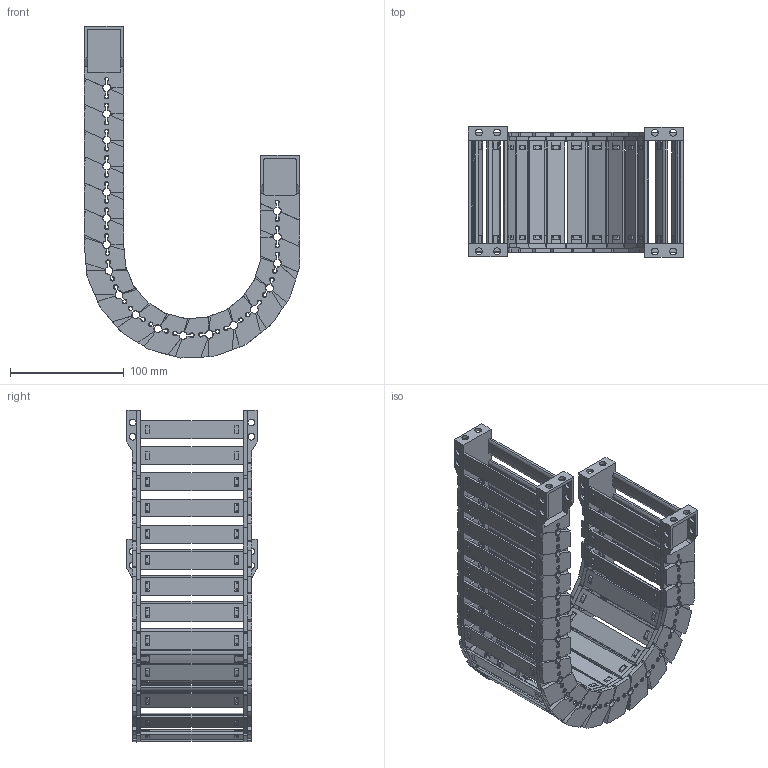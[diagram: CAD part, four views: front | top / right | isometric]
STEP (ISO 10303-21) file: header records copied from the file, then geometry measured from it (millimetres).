
FILE_DESCRIPTION(/* description */ (''),/* implementation_level */ '2;1');
FILE_NAME(/* name */ 'JY28-90-R75.stp',/* time_stamp */ '2026-06-03T16:54:01+08:00',/* author */ (''),/* organization */ (''),/* preprocessor_version */ 'ST-DEVELOPER v19.4',/* originating_system */ 'SIEMENS PLM Software NX2306.5001',/* authorisation */ '');
FILE_SCHEMA (('AP203_CONFIGURATION_CONTROLLED_3D_DESIGN_OF_MECHANICAL_PARTS_AND_ASSEMBLIES_MIM_LF { 1 0 10303 403 2 1 2}'));
Products named in the file (1): 简化图纸_objects
Bounding box: 189.55 x 114.5 x 292.17 mm (x, y, z)
Volume: 415317.1 mm3; surface area: 301225.7 mm2
Topology: 74 solids, 74 shells, 6194 faces, 17618 edges, 11518 vertices
Faces by surface type: plane 4058, cone 1120, cylinder 978, bspline 36, torus 2
Full cylindrical faces by diameter (mm): 6 x24
Entity records: 209461 total; most frequent: CARTESIAN_POINT 46487, ORIENTED_EDGE 35144, DIRECTION 33002, EDGE_CURVE 17572, LINE 11632, VECTOR 11632, VERTEX_POINT 11496, AXIS2_PLACEMENT_3D 10685
